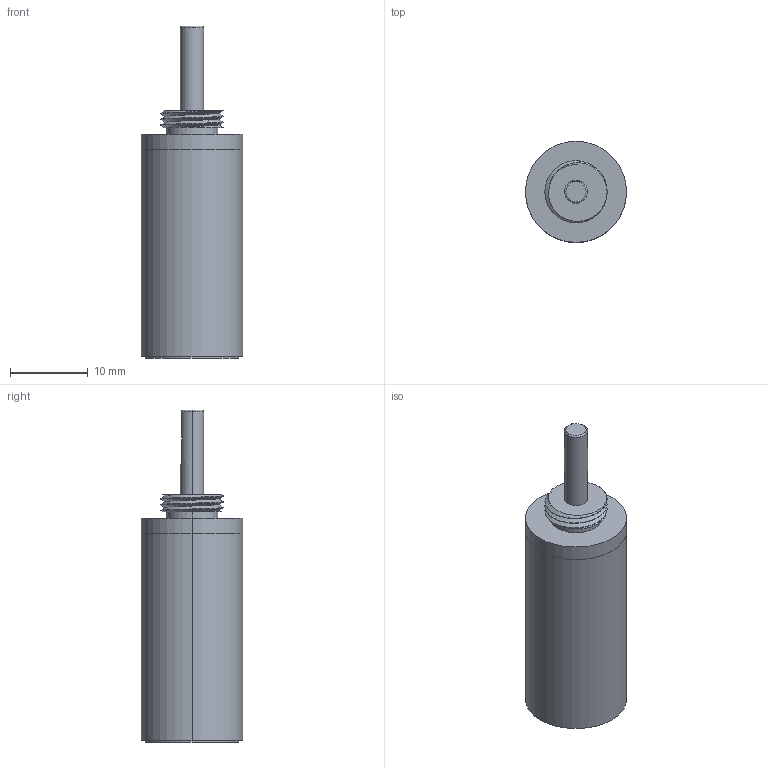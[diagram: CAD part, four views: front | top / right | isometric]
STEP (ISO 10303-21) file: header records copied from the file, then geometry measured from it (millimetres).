
FILE_DESCRIPTION (( 'STEP AP203' ), '1' );
FILE_NAME ('IG-13(II)-6stage.STEP', '2023-03-27T02:50:15', ( '' ), ( '' ), 'SwSTEP 2.0', 'SolidWorks 2019', '' );
FILE_SCHEMA (( 'CONFIG_CONTROL_DESIGN' ));
Length unit declared in the file: millimetre
Products named in the file (1): IG-13(II)-6stage
Bounding box: 13 x 13 x 42.7 mm (x, y, z)
Volume: 4236.5 mm3; surface area: 2068.1 mm2
Topology: 2 solids, 2 shells, 40 faces, 84 edges, 55 vertices
Faces by surface type: cylinder 22, plane 13, torus 3, bspline 2
Entity records: 1645 total; most frequent: CARTESIAN_POINT 724, DIRECTION 184, ORIENTED_EDGE 168, EDGE_CURVE 84, AXIS2_PLACEMENT_3D 80, VERTEX_POINT 55, EDGE_LOOP 47, CIRCLE 41
